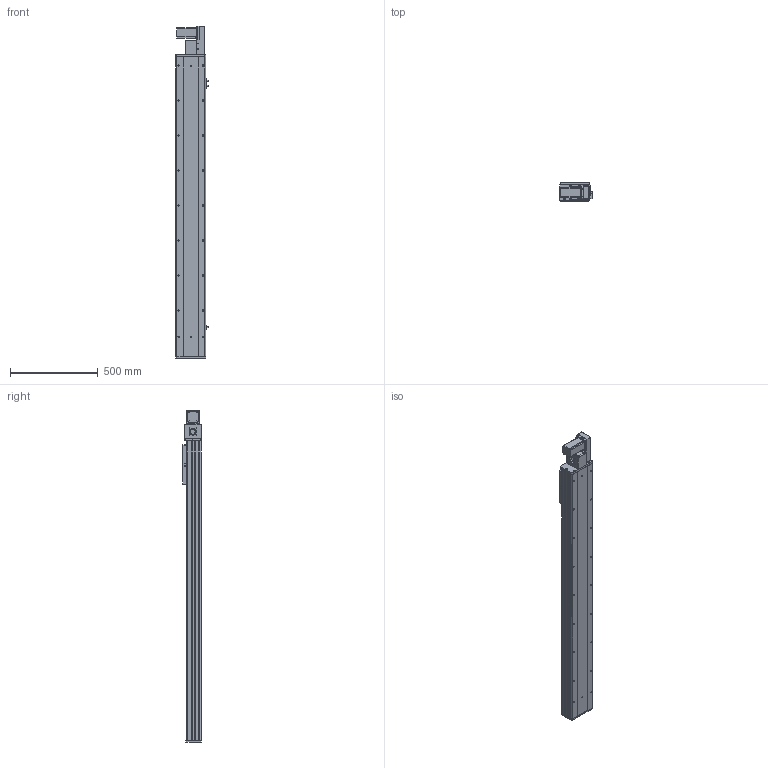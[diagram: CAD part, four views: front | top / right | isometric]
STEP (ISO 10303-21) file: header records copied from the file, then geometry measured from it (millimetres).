
FILE_DESCRIPTION (( 'STEP AP203' ), '1' );
FILE_NAME ('Y170CB-D105-S1400-BR-P400W.STEP', '2020-02-19T09:18:37', ( '微软用户' ), ( '微软中国' ), 'SwSTEP 2.0', 'SolidWorks 2017', '' );
FILE_SCHEMA (( 'CONFIG_CONTROL_DESIGN' ));
Length unit declared in the file: millimetre
Products named in the file (17): 70CB-掛极-; 70B喘謫眊----; B-源倛裔啣; 17B-耜蚾蟀諉啣----; 0B-萇儂楊擘啣; san松下电机400不带刹车----; Y70俋欶BR----; --70CB --喘謫眊楊擘啣-; 70CB-耜裔啣-; 70C--詩湍揤踡え-; 70CB--耜裔; 70C-雄赽釱-奻-; 0C--雄赽釱俋欶-170; 70CB-詩湍--; Y100-135俋离換覜ん--; Y170CB-陔俋离換覜結え---; Y170CB-D105-S1400-BR-P400W
Assembly tree (20 placements, depth 2):
  Y170CB-D105-S1400-BR-P400W
    70B喘謫眊----
    B-源倛裔啣
    17B-耜蚾蟀諉啣----
    0B-萇儂楊擘啣
    san松下电机400不带刹车----
    Y70俋欶BR----
    70CB-掛极-
    --70CB --喘謫眊楊擘啣-
    70CB-耜裔啣-  x2
    70C--詩湍揤踡え-  x2
    70CB--耜裔
    70C-雄赽釱-奻-
    0C--雄赽釱俋欶-170
    70CB-詩湍--
    Y100-135俋离換覜ん--  x3
    Y170CB-陔俋离換覜結え---
Bounding box: 183.5 x 107 x 1897 mm (x, y, z)
Volume: 8107330.8 mm3; surface area: 2907139.7 mm2
Topology: 20 solids, 20 shells, 1009 faces, 2705 edges, 1794 vertices
Faces by surface type: cylinder 523, plane 462, cone 24
Entity records: 32043 total; most frequent: CARTESIAN_POINT 5901, DIRECTION 5212, ORIENTED_EDGE 4892, EDGE_CURVE 2446, AXIS2_PLACEMENT_3D 1905, VERTEX_POINT 1624, LINE 1402, VECTOR 1402
